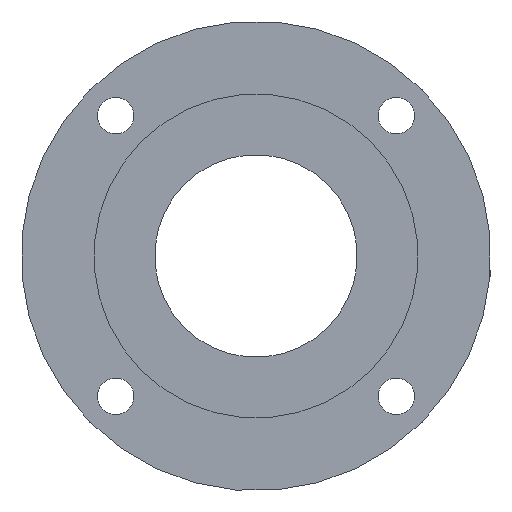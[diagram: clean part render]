
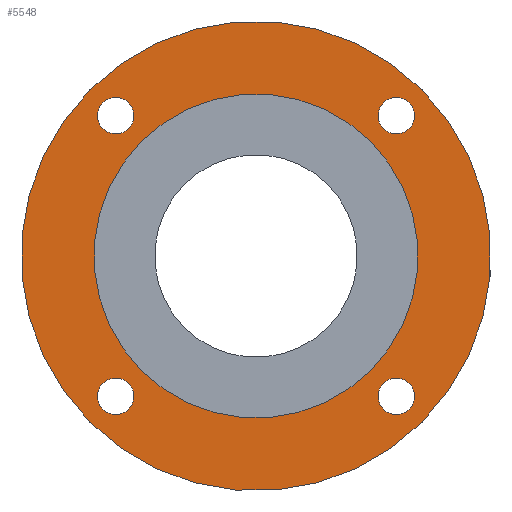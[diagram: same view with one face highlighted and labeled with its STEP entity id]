
A CAD part, left-side view. The second image highlights one B-rep face of the part: STEP entity #5548.
In plain terms, the highlighted planar face has unit normal (-1, 0, 0).
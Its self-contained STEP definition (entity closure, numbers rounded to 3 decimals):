
#108=CIRCLE('',#5900,40.);
#110=CIRCLE('',#5905,4.5);
#111=CIRCLE('',#5906,4.5);
#112=CIRCLE('',#5907,4.5);
#113=CIRCLE('',#5908,4.5);
#114=CIRCLE('',#5909,58.);
#500=ORIENTED_EDGE('',*,*,#2095,.T.);
#501=ORIENTED_EDGE('',*,*,#2096,.T.);
#502=ORIENTED_EDGE('',*,*,#2097,.T.);
#503=ORIENTED_EDGE('',*,*,#2098,.T.);
#504=ORIENTED_EDGE('',*,*,#2099,.F.);
#505=ORIENTED_EDGE('',*,*,#2093,.T.);
#2093=EDGE_CURVE('',#2892,#2892,#108,.T.);
#2095=EDGE_CURVE('',#2894,#2894,#110,.T.);
#2096=EDGE_CURVE('',#2895,#2895,#111,.T.);
#2097=EDGE_CURVE('',#2896,#2896,#112,.T.);
#2098=EDGE_CURVE('',#2897,#2897,#113,.T.);
#2099=EDGE_CURVE('',#2898,#2898,#114,.T.);
#2892=VERTEX_POINT('',#8779);
#2894=VERTEX_POINT('',#8786);
#2895=VERTEX_POINT('',#8788);
#2896=VERTEX_POINT('',#8790);
#2897=VERTEX_POINT('',#8792);
#2898=VERTEX_POINT('',#8794);
#4543=EDGE_LOOP('',(#500));
#4544=EDGE_LOOP('',(#501));
#4545=EDGE_LOOP('',(#502));
#4546=EDGE_LOOP('',(#503));
#4547=EDGE_LOOP('',(#504));
#4548=EDGE_LOOP('',(#505));
#4944=FACE_BOUND('',#4543,.T.);
#4945=FACE_BOUND('',#4544,.T.);
#4946=FACE_BOUND('',#4545,.T.);
#4947=FACE_BOUND('',#4546,.T.);
#4948=FACE_BOUND('',#4547,.T.);
#4949=FACE_BOUND('',#4548,.T.);
#5293=PLANE('',#5904);
#5548=ADVANCED_FACE('',(#4944,#4945,#4946,#4947,#4948,#4949),#5293,.F.);
#5900=AXIS2_PLACEMENT_3D('',#8778,#6407,#6408);
#5904=AXIS2_PLACEMENT_3D('',#8784,#6415,#6416);
#5905=AXIS2_PLACEMENT_3D('',#8785,#6417,#6418);
#5906=AXIS2_PLACEMENT_3D('',#8787,#6419,#6420);
#5907=AXIS2_PLACEMENT_3D('',#8789,#6421,#6422);
#5908=AXIS2_PLACEMENT_3D('',#8791,#6423,#6424);
#5909=AXIS2_PLACEMENT_3D('',#8793,#6425,#6426);
#6407=DIRECTION('',(1.,0.,0.));
#6408=DIRECTION('',(0.,0.707,-0.707));
#6415=DIRECTION('',(1.,0.,0.));
#6416=DIRECTION('',(0.,0.707,-0.707));
#6417=DIRECTION('',(1.,0.,0.));
#6418=DIRECTION('',(0.,0.707,-0.707));
#6419=DIRECTION('',(1.,0.,0.));
#6420=DIRECTION('',(0.,0.707,-0.707));
#6421=DIRECTION('',(1.,0.,0.));
#6422=DIRECTION('',(0.,0.707,-0.707));
#6423=DIRECTION('',(1.,0.,0.));
#6424=DIRECTION('',(0.,0.707,-0.707));
#6425=DIRECTION('',(1.,0.,0.));
#6426=DIRECTION('',(0.,0.707,-0.707));
#8778=CARTESIAN_POINT('',(83.,0.,0.));
#8779=CARTESIAN_POINT('',(83.,28.284,-28.284));
#8784=CARTESIAN_POINT('',(83.,0.,0.));
#8785=CARTESIAN_POINT('',(83.,34.648,-34.648));
#8786=CARTESIAN_POINT('',(83.,37.83,-37.83));
#8787=CARTESIAN_POINT('',(83.,-34.648,-34.648));
#8788=CARTESIAN_POINT('',(83.,-31.466,-37.83));
#8789=CARTESIAN_POINT('',(83.,-34.648,34.648));
#8790=CARTESIAN_POINT('',(83.,-31.466,31.466));
#8791=CARTESIAN_POINT('',(83.,34.648,34.648));
#8792=CARTESIAN_POINT('',(83.,37.83,31.466));
#8793=CARTESIAN_POINT('',(83.,0.,0.));
#8794=CARTESIAN_POINT('',(83.,41.012,-41.012));
